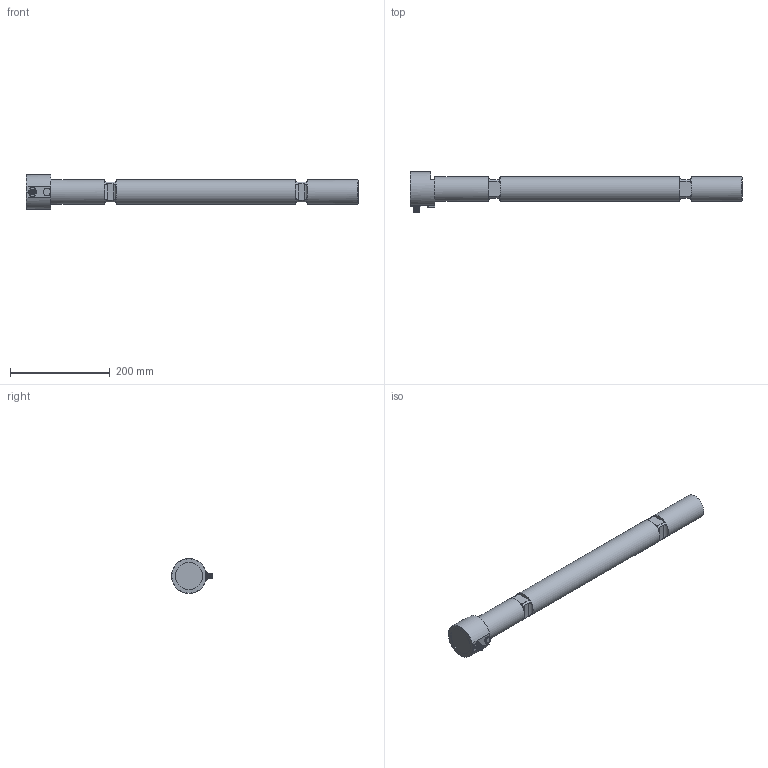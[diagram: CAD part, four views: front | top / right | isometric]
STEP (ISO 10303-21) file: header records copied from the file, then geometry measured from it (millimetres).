
FILE_DESCRIPTION(/* description */ ('Alibre Inc.'),/* implementation_level */ '2;1');
FILE_NAME(/* name */ 'export-6E2A202A-CD96-4604-9B70-832B99132F70',/* time_stamp */ '2020-08-06T14:19:11+02:00',/* author */ (''),/* organization */ (''),/* preprocessor_version */ 'ST-DEVELOPER v17',/* originating_system */ 'Alibre',/* authorisation */ '');
FILE_SCHEMA (('CONFIG_CONTROL_DESIGN'));
Length unit declared in the file: centimetre
Bounding box: 665 x 82 x 70 mm (x, y, z)
Volume: 1488800.8 mm3; surface area: 273676 mm2
Topology: 9 solids, 11 shells, 384 faces, 871 edges, 523 vertices
Faces by surface type: cylinder 141, plane 111, cone 98, torus 26, sphere 8
Full cylindrical faces by diameter (mm): 0.5 x10, 4.5 x1, 8 x2, 9.12 x1, 10 x1, 10.16 x2, 10.5 x1, 11 x1, 11.5 x1, 12 x24, 13 x2, 14.5 x1, 50 x3, 55 x1, 70 x1
Entity records: 9802 total; most frequent: CARTESIAN_POINT 2296, ORIENTED_EDGE 1502, DIRECTION 1224, EDGE_CURVE 745, AXIS2_PLACEMENT_3D 559, EDGE_LOOP 521, FACE_BOUND 521, VERTEX_POINT 506
